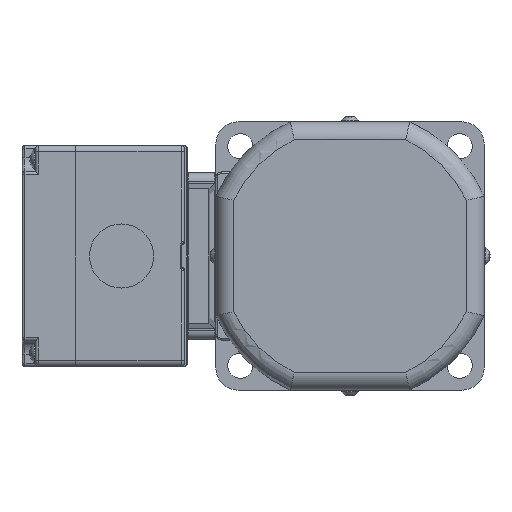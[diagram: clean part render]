
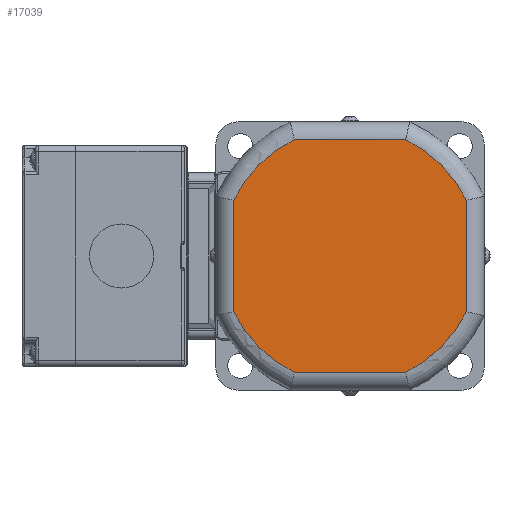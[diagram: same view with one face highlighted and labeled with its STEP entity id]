
A CAD part, left-side view. The second image highlights one B-rep face of the part: STEP entity #17039.
In plain terms, the highlighted planar face has unit normal (-1, 0, 0).
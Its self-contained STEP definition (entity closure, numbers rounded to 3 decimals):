
#1362=LINE('',#27910,#2729);
#1365=LINE('',#27930,#2732);
#1366=LINE('',#27983,#2733);
#1367=LINE('',#28000,#2734);
#2729=VECTOR('',#22252,37.393);
#2732=VECTOR('',#22257,37.393);
#2733=VECTOR('',#22272,37.393);
#2734=VECTOR('',#22275,37.393);
#4246=FACE_OUTER_BOUND('',#5320,.T.);
#5320=EDGE_LOOP('',(#13521,#13522,#13523,#13524,#13525,#13526,#13527,#13528));
#6181=CIRCLE('',#18484,43.25);
#6182=CIRCLE('',#18488,43.25);
#6185=CIRCLE('',#18492,43.25);
#6186=CIRCLE('',#18496,43.25);
#7504=VERTEX_POINT('',#27860);
#7506=VERTEX_POINT('',#27877);
#7508=VERTEX_POINT('',#27895);
#7510=VERTEX_POINT('',#27914);
#7511=VERTEX_POINT('',#27932);
#7512=VERTEX_POINT('',#27950);
#7513=VERTEX_POINT('',#27968);
#7514=VERTEX_POINT('',#27985);
#9577=EDGE_CURVE('',#7506,#7504,#6181,.T.);
#9579=EDGE_CURVE('',#7508,#7506,#1362,.T.);
#9583=EDGE_CURVE('',#7504,#7510,#1365,.T.);
#9585=EDGE_CURVE('',#7511,#7508,#6182,.T.);
#9589=EDGE_CURVE('',#7510,#7512,#6185,.T.);
#9591=EDGE_CURVE('',#7513,#7511,#1366,.T.);
#9593=EDGE_CURVE('',#7512,#7514,#1367,.T.);
#9594=EDGE_CURVE('',#7514,#7513,#6186,.T.);
#13521=ORIENTED_EDGE('',*,*,#9593,.F.);
#13522=ORIENTED_EDGE('',*,*,#9589,.F.);
#13523=ORIENTED_EDGE('',*,*,#9583,.F.);
#13524=ORIENTED_EDGE('',*,*,#9577,.F.);
#13525=ORIENTED_EDGE('',*,*,#9579,.F.);
#13526=ORIENTED_EDGE('',*,*,#9585,.F.);
#13527=ORIENTED_EDGE('',*,*,#9591,.F.);
#13528=ORIENTED_EDGE('',*,*,#9594,.F.);
#15372=PLANE('',#18498);
#17039=ADVANCED_FACE('',(#4246),#15372,.F.);
#18484=AXIS2_PLACEMENT_3D('',#27892,#22248,#22249);
#18488=AXIS2_PLACEMENT_3D('',#27947,#22260,#22261);
#18492=AXIS2_PLACEMENT_3D('',#27966,#22268,#22269);
#18496=AXIS2_PLACEMENT_3D('',#28002,#22278,#22279);
#18498=AXIS2_PLACEMENT_3D('',#28004,#22282,#22283);
#22248=DIRECTION('center_axis',(1.,0.,0.));
#22249=DIRECTION('ref_axis',(0.,0.707,-0.707));
#22252=DIRECTION('',(0.,1.,0.));
#22257=DIRECTION('',(0.,0.,1.));
#22260=DIRECTION('center_axis',(1.,0.,0.));
#22261=DIRECTION('ref_axis',(0.,-0.707,-0.707));
#22268=DIRECTION('center_axis',(1.,0.,0.));
#22269=DIRECTION('ref_axis',(0.,0.707,0.707));
#22272=DIRECTION('',(0.,0.,-1.));
#22275=DIRECTION('',(0.,-1.,0.));
#22278=DIRECTION('center_axis',(1.,0.,0.));
#22279=DIRECTION('ref_axis',(0.,-0.707,0.707));
#22282=DIRECTION('center_axis',(1.,0.,0.));
#22283=DIRECTION('ref_axis',(0.,1.,0.));
#27860=CARTESIAN_POINT('',(-17.8,39.,-18.697));
#27877=CARTESIAN_POINT('',(-17.8,18.697,-39.));
#27892=CARTESIAN_POINT('Origin',(-17.8,0.,
0.));
#27895=CARTESIAN_POINT('',(-17.8,-18.697,-39.));
#27910=CARTESIAN_POINT('',(-17.8,-18.697,-39.));
#27914=CARTESIAN_POINT('',(-17.8,39.,18.697));
#27930=CARTESIAN_POINT('',(-17.8,39.,-18.697));
#27932=CARTESIAN_POINT('',(-17.8,-39.,-18.697));
#27947=CARTESIAN_POINT('Origin',(-17.8,0.,
0.));
#27950=CARTESIAN_POINT('',(-17.8,18.697,39.));
#27966=CARTESIAN_POINT('Origin',(-17.8,0.,
0.));
#27968=CARTESIAN_POINT('',(-17.8,-39.,18.697));
#27983=CARTESIAN_POINT('',(-17.8,-39.,18.697));
#27985=CARTESIAN_POINT('',(-17.8,-18.697,39.));
#28000=CARTESIAN_POINT('',(-17.8,18.697,39.));
#28002=CARTESIAN_POINT('Origin',(-17.8,0.,
0.));
#28004=CARTESIAN_POINT('Origin',(-17.8,0.,
0.));
